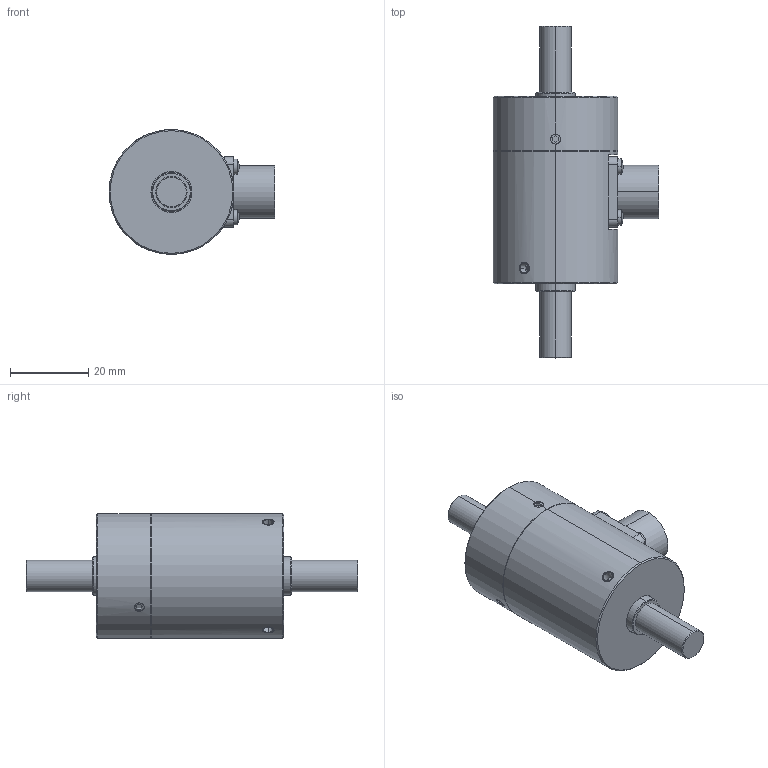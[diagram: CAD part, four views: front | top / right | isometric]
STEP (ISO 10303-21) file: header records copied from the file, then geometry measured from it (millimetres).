
FILE_DESCRIPTION (( 'STEP AP203' ), '1' );
FILE_NAME ('FT05.STEP', '2024-07-17T07:54:39', ( '' ), ( '' ), 'SwSTEP 2.0', 'SolidWorks 2019', '' );
FILE_SCHEMA (( 'CONFIG_CONTROL_DESIGN' ));
Length unit declared in the file: millimetre
Products named in the file (1): FT05
Bounding box: 42.5 x 85 x 32 mm (x, y, z)
Volume: 41130.3 mm3; surface area: 9462.3 mm2
Topology: 1 solids, 4 shells, 172 faces, 377 edges, 241 vertices
Faces by surface type: plane 82, cylinder 68, cone 18, bspline 4
Entity records: 5752 total; most frequent: CARTESIAN_POINT 1845, DIRECTION 821, ORIENTED_EDGE 742, EDGE_CURVE 371, AXIS2_PLACEMENT_3D 303, VERTEX_POINT 241, VECTOR 215, LINE 215
